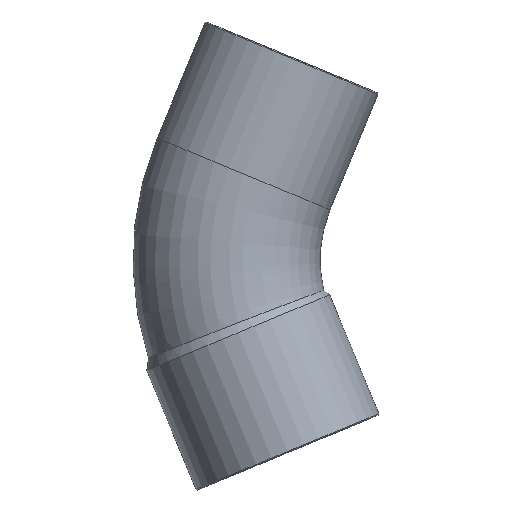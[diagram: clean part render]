
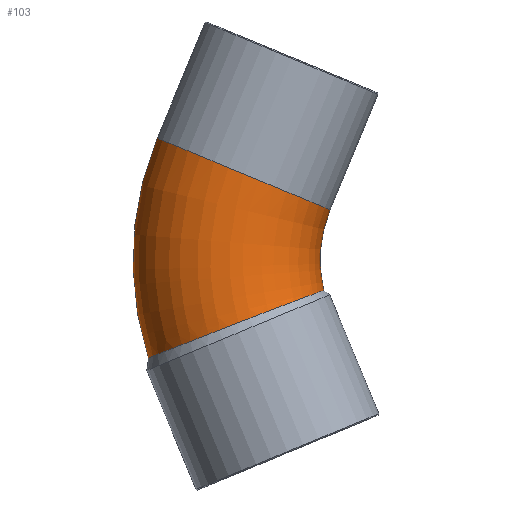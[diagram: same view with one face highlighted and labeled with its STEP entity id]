
A CAD part, front view. The second image highlights one B-rep face of the part: STEP entity #103.
In plain terms, the highlighted toroidal (fillet/blend) face has major radius 42 mm and minor radius 17.5 mm.
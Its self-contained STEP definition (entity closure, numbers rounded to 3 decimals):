
#44=CARTESIAN_POINT('',(4.435,0.,0.));
#45=DIRECTION('',(0.,1.0,0.));
#46=DIRECTION('',(-0.383,0.,0.924));
#47=AXIS2_PLACEMENT_3D('',#44,#45,#46);
#48=TOROIDAL_SURFACE('',#47,42.0,17.5);
#49=CARTESIAN_POINT('',(-52.17,0.,-18.335));
#50=VERTEX_POINT('',#49);
#51=CARTESIAN_POINT('',(-50.536,0.,22.77));
#52=VERTEX_POINT('',#51);
#53=CARTESIAN_POINT('',(4.435,0.,0.));
#54=DIRECTION('',(0.0,1.0,0.0));
#55=DIRECTION('',(0.0,0.0,1.0));
#56=AXIS2_PLACEMENT_3D('',#53,#54,#55);
#57=CIRCLE('',#56,59.5);
#58=EDGE_CURVE('',#50,#52,#57,.T.);
#59=ORIENTED_EDGE('',*,*,#58,.F.);
#60=CARTESIAN_POINT('',(-19.396,0.,-5.687));
#61=VERTEX_POINT('',#60);
#62=CARTESIAN_POINT('',(-52.17,0.,-18.335));
#63=CARTESIAN_POINT('',(-52.17,-1.289,-18.335));
#64=CARTESIAN_POINT('',(-52.037,-2.573,-18.283));
#65=CARTESIAN_POINT('',(-51.511,-5.088,-18.074));
#66=CARTESIAN_POINT('',(-51.12,-6.311,-17.919));
#67=CARTESIAN_POINT('',(-49.7,-9.537,-17.357));
#68=CARTESIAN_POINT('',(-48.426,-11.387,-16.854));
#69=CARTESIAN_POINT('',(-45.285,-14.463,-15.616));
#70=CARTESIAN_POINT('',(-43.446,-15.657,-14.893));
#71=CARTESIAN_POINT('',(-39.437,-17.224,-13.324));
#72=CARTESIAN_POINT('',(-37.305,-17.579,-12.493));
#73=CARTESIAN_POINT('',(-33.028,-17.392,-10.837));
#74=CARTESIAN_POINT('',(-30.924,-16.851,-10.028));
#75=CARTESIAN_POINT('',(-27.031,-14.939,-8.542));
#76=CARTESIAN_POINT('',(-25.278,-13.589,-7.879));
#77=CARTESIAN_POINT('',(-22.362,-10.258,-6.784));
#78=CARTESIAN_POINT('',(-21.222,-8.312,-6.361));
#79=CARTESIAN_POINT('',(-19.758,-4.211,-5.82));
#80=CARTESIAN_POINT('',(-19.396,-2.114,-5.687));
#81=CARTESIAN_POINT('',(-19.396,0.,-5.687));
#82=B_SPLINE_CURVE_WITH_KNOTS('',3,(#62,#63,#64,#65,#66,#67,#68,#69,#70,#71,#72,#73,#74,#75,#76,#77,#78,#79,#80,#81),.UNSPECIFIED.,.F.,.U.,(4,2,2,2,2,2,2,2,2,4),(-11.048,-10.661,-10.275,-9.591,-8.905,-8.216,-7.528,-6.841,-6.16,-5.525),.UNSPECIFIED.);
#83=EDGE_CURVE('',#50,#61,#82,.T.);
#84=ORIENTED_EDGE('',*,*,#83,.T.);
#85=CARTESIAN_POINT('',(-18.2,0.,9.376));
#86=VERTEX_POINT('',#85);
#87=CARTESIAN_POINT('',(4.435,0.,0.));
#88=DIRECTION('',(0.0,-1.0,0.0));
#89=DIRECTION('',(0.0,0.0,1.0));
#90=AXIS2_PLACEMENT_3D('',#87,#88,#89);
#91=CIRCLE('',#90,24.5);
#92=EDGE_CURVE('',#86,#61,#91,.T.);
#93=ORIENTED_EDGE('',*,*,#92,.F.);
#94=CARTESIAN_POINT('',(-34.368,0.,16.073));
#95=DIRECTION('',(-0.383,0.,-0.924));
#96=DIRECTION('',(-0.924,0.,0.383));
#97=AXIS2_PLACEMENT_3D('',#94,#95,#96);
#98=CIRCLE('',#97,17.5);
#99=EDGE_CURVE('',#86,#52,#98,.T.);
#100=ORIENTED_EDGE('',*,*,#99,.T.);
#101=EDGE_LOOP('',(#59,#84,#93,#100));
#102=FACE_OUTER_BOUND('',#101,.T.);
#103=ADVANCED_FACE('',(#102),#48,.T.);
